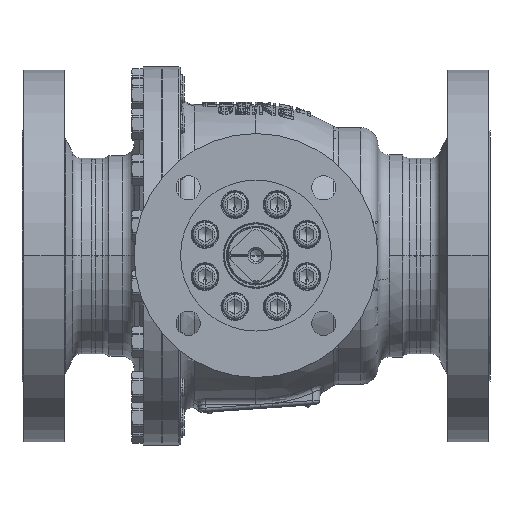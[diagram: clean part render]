
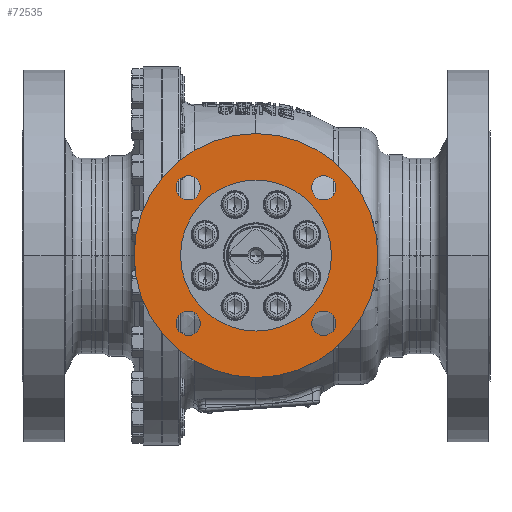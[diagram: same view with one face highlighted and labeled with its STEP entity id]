
A CAD part, top view. The second image highlights one B-rep face of the part: STEP entity #72535.
In plain terms, the highlighted planar face has unit normal (0, 0, 1).
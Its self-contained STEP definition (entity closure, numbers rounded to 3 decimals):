
#2480=CARTESIAN_POINT('',(0.,0.,233.));
#2481=DIRECTION('',(0.,0.,1.));
#2482=DIRECTION('',(1.,0.,0.));
#2483=AXIS2_PLACEMENT_3D('',#2480,#2481,#2482);
#2485=CARTESIAN_POINT('',(0.,0.,233.));
#2486=DIRECTION('',(0.,0.,-1.));
#2487=DIRECTION('',(1.,0.,0.));
#2488=AXIS2_PLACEMENT_3D('',#2485,#2486,#2487);
#2490=CARTESIAN_POINT('',(58.336,-58.336,233.));
#2491=DIRECTION('',(0.,0.,-1.));
#2492=DIRECTION('',(-1.,0.,0.));
#2493=AXIS2_PLACEMENT_3D('',#2490,#2491,#2492);
#2495=CARTESIAN_POINT('',(58.336,-58.336,233.));
#2496=DIRECTION('',(0.,0.,-1.));
#2497=DIRECTION('',(1.,0.,0.));
#2498=AXIS2_PLACEMENT_3D('',#2495,#2496,#2497);
#2500=CARTESIAN_POINT('',(-58.336,-58.336,233.));
#2501=DIRECTION('',(0.,0.,-1.));
#2502=DIRECTION('',(0.,1.,0.));
#2503=AXIS2_PLACEMENT_3D('',#2500,#2501,#2502);
#2505=CARTESIAN_POINT('',(-58.336,-58.336,233.));
#2506=DIRECTION('',(0.,0.,-1.));
#2507=DIRECTION('',(0.,-1.,0.));
#2508=AXIS2_PLACEMENT_3D('',#2505,#2506,#2507);
#2510=CARTESIAN_POINT('',(-58.336,58.336,233.));
#2511=DIRECTION('',(0.,0.,-1.));
#2512=DIRECTION('',(1.,0.,0.));
#2513=AXIS2_PLACEMENT_3D('',#2510,#2511,#2512);
#2515=CARTESIAN_POINT('',(-58.336,58.336,233.));
#2516=DIRECTION('',(0.,0.,-1.));
#2517=DIRECTION('',(-1.,0.,0.));
#2518=AXIS2_PLACEMENT_3D('',#2515,#2516,#2517);
#2520=CARTESIAN_POINT('',(58.336,58.336,233.));
#2521=DIRECTION('',(0.,0.,-1.));
#2522=DIRECTION('',(0.,-1.,0.));
#2523=AXIS2_PLACEMENT_3D('',#2520,#2521,#2522);
#2525=CARTESIAN_POINT('',(58.336,58.336,233.));
#2526=DIRECTION('',(0.,0.,-1.));
#2527=DIRECTION('',(0.,1.,0.));
#2528=AXIS2_PLACEMENT_3D('',#2525,#2526,#2527);
#2534=CARTESIAN_POINT('',(0.,0.,233.));
#2535=DIRECTION('',(0.,0.,-1.));
#2536=DIRECTION('',(1.,0.,0.));
#2537=AXIS2_PLACEMENT_3D('',#2534,#2535,#2536);
#2543=CARTESIAN_POINT('',(0.,0.,233.));
#2544=DIRECTION('',(0.,0.,1.));
#2545=DIRECTION('',(1.,0.,0.));
#2546=AXIS2_PLACEMENT_3D('',#2543,#2544,#2545);
#60574=CARTESIAN_POINT('',(65.,0.,233.));
#60576=VERTEX_POINT('',#60574);
#60578=CARTESIAN_POINT('',(-65.,0.,233.));
#60580=VERTEX_POINT('',#60578);
#60582=CARTESIAN_POINT('',(105.,0.,233.));
#60583=CARTESIAN_POINT('',(-105.,0.,233.));
#60584=VERTEX_POINT('',#60582);
#60585=VERTEX_POINT('',#60583);
#60638=CARTESIAN_POINT('',(47.836,-58.336,233.));
#60639=CARTESIAN_POINT('',(68.836,-58.336,233.));
#60640=VERTEX_POINT('',#60638);
#60641=VERTEX_POINT('',#60639);
#60642=CARTESIAN_POINT('',(-58.336,-47.836,233.));
#60643=CARTESIAN_POINT('',(-58.336,-68.836,233.));
#60644=VERTEX_POINT('',#60642);
#60645=VERTEX_POINT('',#60643);
#60646=CARTESIAN_POINT('',(-47.836,58.336,233.));
#60647=CARTESIAN_POINT('',(-68.836,58.336,233.));
#60648=VERTEX_POINT('',#60646);
#60649=VERTEX_POINT('',#60647);
#60650=CARTESIAN_POINT('',(58.336,47.836,233.));
#60651=CARTESIAN_POINT('',(58.336,68.836,233.));
#60652=VERTEX_POINT('',#60650);
#60653=VERTEX_POINT('',#60651);
#72496=CARTESIAN_POINT('',(0.,0.,233.));
#72497=DIRECTION('',(0.,0.,1.));
#72498=DIRECTION('',(1.,0.,0.));
#72499=AXIS2_PLACEMENT_3D('',#72496,#72497,#72498);
#72500=PLANE('',#72499);
#72501=ORIENTED_EDGE('',*,*,#72476,.F.);
#72502=ORIENTED_EDGE('',*,*,#72490,.T.);
#72503=EDGE_LOOP('',(#72501,#72502));
#72504=FACE_OUTER_BOUND('',#72503,.F.);
#72506=ORIENTED_EDGE('',*,*,#72505,.F.);
#72508=ORIENTED_EDGE('',*,*,#72507,.T.);
#72509=EDGE_LOOP('',(#72506,#72508));
#72510=FACE_BOUND('',#72509,.F.);
#72512=ORIENTED_EDGE('',*,*,#72511,.F.);
#72514=ORIENTED_EDGE('',*,*,#72513,.F.);
#72515=EDGE_LOOP('',(#72512,#72514));
#72516=FACE_BOUND('',#72515,.F.);
#72518=ORIENTED_EDGE('',*,*,#72517,.F.);
#72520=ORIENTED_EDGE('',*,*,#72519,.F.);
#72521=EDGE_LOOP('',(#72518,#72520));
#72522=FACE_BOUND('',#72521,.F.);
#72524=ORIENTED_EDGE('',*,*,#72523,.F.);
#72526=ORIENTED_EDGE('',*,*,#72525,.F.);
#72527=EDGE_LOOP('',(#72524,#72526));
#72528=FACE_BOUND('',#72527,.F.);
#72530=ORIENTED_EDGE('',*,*,#72529,.F.);
#72532=ORIENTED_EDGE('',*,*,#72531,.F.);
#72533=EDGE_LOOP('',(#72530,#72532));
#72534=FACE_BOUND('',#72533,.F.);
#72535=ADVANCED_FACE('',(#72504,#72510,#72516,#72522,#72528,#72534),#72500,.T.);
#2484=CIRCLE('',#2483,105.);
#2489=CIRCLE('',#2488,105.);
#2494=CIRCLE('',#2493,10.5);
#2499=CIRCLE('',#2498,10.5);
#2504=CIRCLE('',#2503,10.5);
#2509=CIRCLE('',#2508,10.5);
#2514=CIRCLE('',#2513,10.5);
#2519=CIRCLE('',#2518,10.5);
#2524=CIRCLE('',#2523,10.5);
#2529=CIRCLE('',#2528,10.5);
#2538=CIRCLE('',#2537,65.);
#2547=CIRCLE('',#2546,65.);
#72476=EDGE_CURVE('',#60584,#60585,#2484,.T.);
#72490=EDGE_CURVE('',#60584,#60585,#2489,.T.);
#72505=EDGE_CURVE('',#60576,#60580,#2538,.T.);
#72507=EDGE_CURVE('',#60576,#60580,#2547,.T.);
#72511=EDGE_CURVE('',#60640,#60641,#2494,.T.);
#72513=EDGE_CURVE('',#60641,#60640,#2499,.T.);
#72517=EDGE_CURVE('',#60644,#60645,#2504,.T.);
#72519=EDGE_CURVE('',#60645,#60644,#2509,.T.);
#72523=EDGE_CURVE('',#60648,#60649,#2514,.T.);
#72525=EDGE_CURVE('',#60649,#60648,#2519,.T.);
#72529=EDGE_CURVE('',#60652,#60653,#2524,.T.);
#72531=EDGE_CURVE('',#60653,#60652,#2529,.T.);
